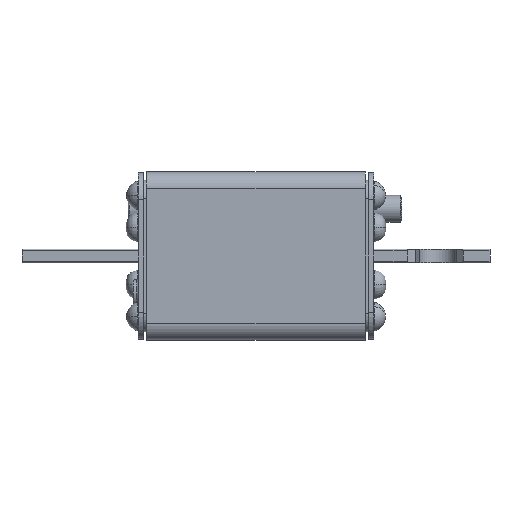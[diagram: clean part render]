
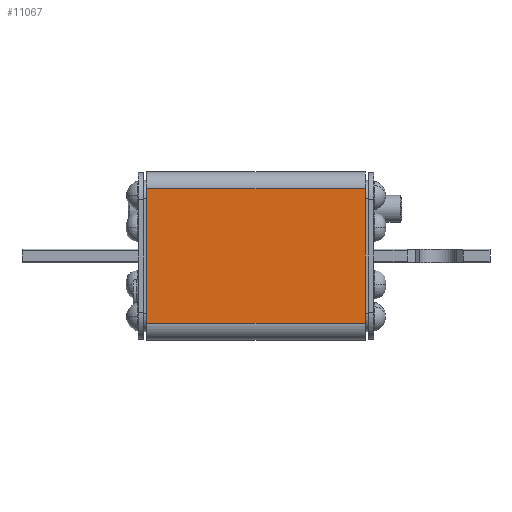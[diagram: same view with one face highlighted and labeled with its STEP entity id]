
A CAD part, left-side view. The second image highlights one B-rep face of the part: STEP entity #11067.
In plain terms, the highlighted planar face has unit normal (-1, 0, 0).
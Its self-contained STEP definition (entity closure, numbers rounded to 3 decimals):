
#94 = CARTESIAN_POINT ( 'NONE',  ( -25., -32.5, -20. ) ) ;
#542 = CARTESIAN_POINT ( 'NONE',  ( -25., -32.5, 20. ) ) ;
#740 = VECTOR ( 'NONE', #13246, 1000. ) ;
#906 = EDGE_CURVE ( 'NONE', #12577, #8445, #4333, .T. ) ;
#928 = EDGE_CURVE ( 'NONE', #12577, #16930, #7963, .T. ) ;
#2508 = CARTESIAN_POINT ( 'NONE',  ( -25., 32.5, 20. ) ) ;
#2551 = CARTESIAN_POINT ( 'NONE',  ( -25., 32.5, 20. ) ) ;
#3860 = DIRECTION ( 'NONE',  ( 0., -1., 0. ) ) ;
#4333 = LINE ( 'NONE', #10426, #11630 ) ;
#4381 = AXIS2_PLACEMENT_3D ( 'NONE', #16662, #11341, #15381 ) ;
#4473 = VECTOR ( 'NONE', #3860, 1000. ) ;
#5104 = LINE ( 'NONE', #2551, #4473 ) ;
#7963 = LINE ( 'NONE', #14594, #740 ) ;
#8445 = VERTEX_POINT ( 'NONE', #2508 ) ;
#9349 = EDGE_CURVE ( 'NONE', #16930, #16486, #13880, .T. ) ;
#10165 = CARTESIAN_POINT ( 'NONE',  ( -25., 32.5, -20. ) ) ;
#10426 = CARTESIAN_POINT ( 'NONE',  ( -25., 32.5, -20. ) ) ;
#10605 = ORIENTED_EDGE ( 'NONE', *, *, #928, .T. ) ;
#11067 = ADVANCED_FACE ( 'NONE', ( #16018 ), #15331, .F. ) ;
#11341 = DIRECTION ( 'NONE',  ( 1., 0., 0. ) ) ;
#11358 = CARTESIAN_POINT ( 'NONE',  ( -25., -32.5, -20. ) ) ;
#11407 = DIRECTION ( 'NONE',  ( 0., 0., 1. ) ) ;
#11557 = VECTOR ( 'NONE', #14985, 1000. ) ;
#11630 = VECTOR ( 'NONE', #11407, 1000. ) ;
#12140 = ORIENTED_EDGE ( 'NONE', *, *, #9349, .T. ) ;
#12263 = ORIENTED_EDGE ( 'NONE', *, *, #906, .F. ) ;
#12577 = VERTEX_POINT ( 'NONE', #10165 ) ;
#13246 = DIRECTION ( 'NONE',  ( 0., -1., 0. ) ) ;
#13880 = LINE ( 'NONE', #94, #11557 ) ;
#14594 = CARTESIAN_POINT ( 'NONE',  ( -25., 32.5, -20. ) ) ;
#14695 = EDGE_LOOP ( 'NONE', ( #12140, #15335, #12263, #10605 ) ) ;
#14985 = DIRECTION ( 'NONE',  ( 0., 0., 1. ) ) ;
#15331 = PLANE ( 'NONE',  #4381 ) ;
#15335 = ORIENTED_EDGE ( 'NONE', *, *, #15709, .F. ) ;
#15381 = DIRECTION ( 'NONE',  ( 0., 0., -1. ) ) ;
#15709 = EDGE_CURVE ( 'NONE', #8445, #16486, #5104, .T. ) ;
#16018 = FACE_OUTER_BOUND ( 'NONE', #14695, .T. ) ;
#16486 = VERTEX_POINT ( 'NONE', #542 ) ;
#16662 = CARTESIAN_POINT ( 'NONE',  ( -25., 32.5, -20. ) ) ;
#16930 = VERTEX_POINT ( 'NONE', #11358 ) ;
